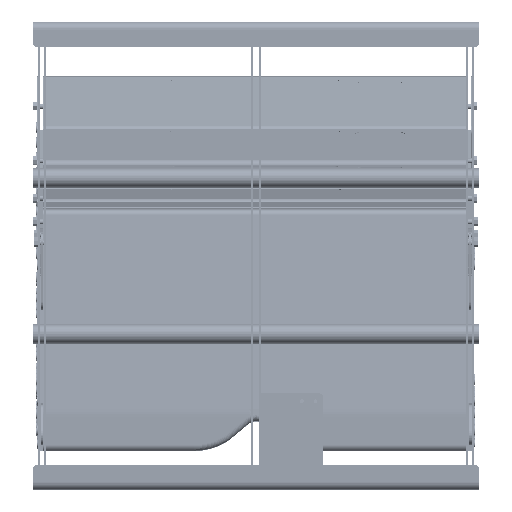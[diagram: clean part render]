
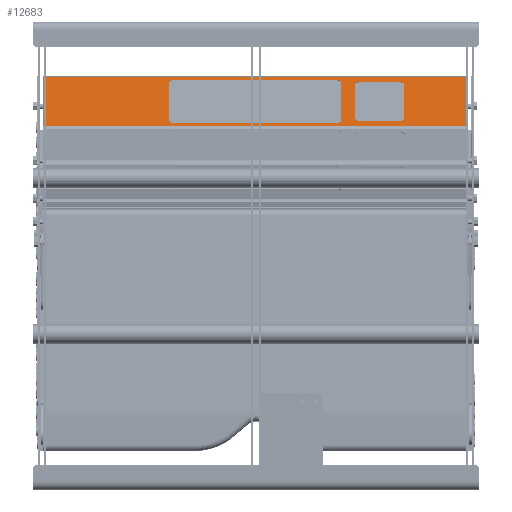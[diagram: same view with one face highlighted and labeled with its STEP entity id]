
A CAD part, top view. The second image highlights one B-rep face of the part: STEP entity #12683.
In plain terms, the highlighted planar face has unit normal (0, 0.875, 0.485) as drawn and (-1, 0, 0) by its records, which use the part's own axes.
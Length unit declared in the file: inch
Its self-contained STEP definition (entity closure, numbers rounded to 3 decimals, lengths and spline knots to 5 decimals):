
#927=CIRCLE('',#13787,0.375);
#928=CIRCLE('',#13788,0.375);
#929=CIRCLE('',#13789,0.375);
#930=CIRCLE('',#13790,0.375);
#931=CIRCLE('',#13791,0.33);
#932=CIRCLE('',#13792,0.33);
#933=CIRCLE('',#13793,0.33);
#934=CIRCLE('',#13794,0.33);
#1467=FACE_BOUND('',#2704,.T.);
#1468=FACE_BOUND('',#2705,.T.);
#1864=FACE_OUTER_BOUND('',#2703,.T.);
#2703=EDGE_LOOP('',(#10291,#10292,#10293,#10294));
#2704=EDGE_LOOP('',(#10295,#10296,#10297,#10298,#10299,#10300,#10301,#10302));
#2705=EDGE_LOOP('',(#10303,#10304,#10305,#10306,#10307,#10308,#10309,#10310));
#3933=LINE('',#20619,#5051);
#3936=LINE('',#20629,#5054);
#3937=LINE('',#20630,#5055);
#3938=LINE('',#20631,#5056);
#3939=LINE('',#20636,#5057);
#3940=LINE('',#20640,#5058);
#3941=LINE('',#20644,#5059);
#3942=LINE('',#20647,#5060);
#3943=LINE('',#20652,#5061);
#3944=LINE('',#20656,#5062);
#3945=LINE('',#20660,#5063);
#3946=LINE('',#20663,#5064);
#5051=VECTOR('',#16533,27.238);
#5054=VECTOR('',#16544,27.238);
#5055=VECTOR('',#16545,6.45343);
#5056=VECTOR('',#16546,6.45343);
#5057=VECTOR('',#16549,10.25);
#5058=VECTOR('',#16552,5.05);
#5059=VECTOR('',#16555,10.25);
#5060=VECTOR('',#16558,5.05);
#5061=VECTOR('',#16561,2.5);
#5062=VECTOR('',#16564,4.5);
#5063=VECTOR('',#16567,2.5);
#5064=VECTOR('',#16570,4.5);
#6143=VERTEX_POINT('',#20617);
#6144=VERTEX_POINT('',#20618);
#6146=VERTEX_POINT('',#20627);
#6147=VERTEX_POINT('',#20628);
#6148=VERTEX_POINT('',#20632);
#6149=VERTEX_POINT('',#20633);
#6150=VERTEX_POINT('',#20635);
#6151=VERTEX_POINT('',#20637);
#6152=VERTEX_POINT('',#20639);
#6153=VERTEX_POINT('',#20641);
#6154=VERTEX_POINT('',#20643);
#6155=VERTEX_POINT('',#20645);
#6156=VERTEX_POINT('',#20648);
#6157=VERTEX_POINT('',#20649);
#6158=VERTEX_POINT('',#20651);
#6159=VERTEX_POINT('',#20653);
#6160=VERTEX_POINT('',#20655);
#6161=VERTEX_POINT('',#20657);
#6162=VERTEX_POINT('',#20659);
#6163=VERTEX_POINT('',#20661);
#7622=EDGE_CURVE('',#6143,#6144,#3933,.T.);
#7627=EDGE_CURVE('',#6146,#6147,#3936,.T.);
#7628=EDGE_CURVE('',#6146,#6143,#3937,.T.);
#7629=EDGE_CURVE('',#6147,#6144,#3938,.T.);
#7630=EDGE_CURVE('',#6148,#6149,#927,.T.);
#7631=EDGE_CURVE('',#6150,#6148,#3939,.T.);
#7632=EDGE_CURVE('',#6151,#6150,#928,.T.);
#7633=EDGE_CURVE('',#6152,#6151,#3940,.T.);
#7634=EDGE_CURVE('',#6153,#6152,#929,.T.);
#7635=EDGE_CURVE('',#6154,#6153,#3941,.T.);
#7636=EDGE_CURVE('',#6155,#6154,#930,.T.);
#7637=EDGE_CURVE('',#6149,#6155,#3942,.T.);
#7638=EDGE_CURVE('',#6156,#6157,#931,.T.);
#7639=EDGE_CURVE('',#6158,#6156,#3943,.T.);
#7640=EDGE_CURVE('',#6159,#6158,#932,.T.);
#7641=EDGE_CURVE('',#6160,#6159,#3944,.T.);
#7642=EDGE_CURVE('',#6161,#6160,#933,.T.);
#7643=EDGE_CURVE('',#6162,#6161,#3945,.T.);
#7644=EDGE_CURVE('',#6163,#6162,#934,.T.);
#7645=EDGE_CURVE('',#6157,#6163,#3946,.T.);
#10291=ORIENTED_EDGE('',*,*,#7627,.F.);
#10292=ORIENTED_EDGE('',*,*,#7628,.T.);
#10293=ORIENTED_EDGE('',*,*,#7622,.T.);
#10294=ORIENTED_EDGE('',*,*,#7629,.F.);
#10295=ORIENTED_EDGE('',*,*,#7630,.F.);
#10296=ORIENTED_EDGE('',*,*,#7631,.F.);
#10297=ORIENTED_EDGE('',*,*,#7632,.F.);
#10298=ORIENTED_EDGE('',*,*,#7633,.F.);
#10299=ORIENTED_EDGE('',*,*,#7634,.F.);
#10300=ORIENTED_EDGE('',*,*,#7635,.F.);
#10301=ORIENTED_EDGE('',*,*,#7636,.F.);
#10302=ORIENTED_EDGE('',*,*,#7637,.F.);
#10303=ORIENTED_EDGE('',*,*,#7638,.F.);
#10304=ORIENTED_EDGE('',*,*,#7639,.F.);
#10305=ORIENTED_EDGE('',*,*,#7640,.F.);
#10306=ORIENTED_EDGE('',*,*,#7641,.F.);
#10307=ORIENTED_EDGE('',*,*,#7642,.F.);
#10308=ORIENTED_EDGE('',*,*,#7643,.F.);
#10309=ORIENTED_EDGE('',*,*,#7644,.F.);
#10310=ORIENTED_EDGE('',*,*,#7645,.F.);
#12218=PLANE('',#13786);
#12683=ADVANCED_FACE('',(#1864,#1467,#1468),#12218,.T.);
#13786=AXIS2_PLACEMENT_3D('',#20626,#16542,#16543);
#13787=AXIS2_PLACEMENT_3D('',#20634,#16547,#16548);
#13788=AXIS2_PLACEMENT_3D('',#20638,#16550,#16551);
#13789=AXIS2_PLACEMENT_3D('',#20642,#16553,#16554);
#13790=AXIS2_PLACEMENT_3D('',#20646,#16556,#16557);
#13791=AXIS2_PLACEMENT_3D('',#20650,#16559,#16560);
#13792=AXIS2_PLACEMENT_3D('',#20654,#16562,#16563);
#13793=AXIS2_PLACEMENT_3D('',#20658,#16565,#16566);
#13794=AXIS2_PLACEMENT_3D('',#20662,#16568,#16569);
#16533=DIRECTION('',(0.,0.,1.));
#16542=DIRECTION('center_axis',(-1.,0.,0.));
#16543=DIRECTION('ref_axis',(0.,0.,1.));
#16544=DIRECTION('',(0.,0.,1.));
#16545=DIRECTION('',(0.,-1.,0.));
#16546=DIRECTION('',(0.,-1.,0.));
#16547=DIRECTION('center_axis',(-1.,0.,0.));
#16548=DIRECTION('ref_axis',(0.,-1.,0.));
#16549=DIRECTION('',(0.,0.,-1.));
#16550=DIRECTION('center_axis',(-1.,0.,0.));
#16551=DIRECTION('ref_axis',(0.,-1.,0.));
#16552=DIRECTION('',(0.,1.,0.));
#16553=DIRECTION('center_axis',(-1.,0.,0.));
#16554=DIRECTION('ref_axis',(0.,-1.,0.));
#16555=DIRECTION('',(0.,0.,1.));
#16556=DIRECTION('center_axis',(-1.,0.,0.));
#16557=DIRECTION('ref_axis',(0.,-1.,0.));
#16558=DIRECTION('',(0.,-1.,0.));
#16559=DIRECTION('center_axis',(-1.,0.,0.));
#16560=DIRECTION('ref_axis',(0.,-1.,0.));
#16561=DIRECTION('',(0.,0.,-1.));
#16562=DIRECTION('center_axis',(-1.,0.,0.));
#16563=DIRECTION('ref_axis',(0.,-1.,0.));
#16564=DIRECTION('',(0.,1.,0.));
#16565=DIRECTION('center_axis',(-1.,0.,0.));
#16566=DIRECTION('ref_axis',(0.,-1.,0.));
#16567=DIRECTION('',(0.,0.,1.));
#16568=DIRECTION('center_axis',(-1.,0.,0.));
#16569=DIRECTION('ref_axis',(0.,-1.,0.));
#16570=DIRECTION('',(0.,-1.,0.));
#20617=CARTESIAN_POINT('',(-13.0906,-3.22672,-27.607));
#20618=CARTESIAN_POINT('',(-13.0906,-3.22672,-0.369));
#20619=CARTESIAN_POINT('',(-13.0906,-3.22672,-27.607));
#20626=CARTESIAN_POINT('Origin',(-13.0906,-3.22672,-27.976));
#20627=CARTESIAN_POINT('',(-13.0906,3.22672,-27.607));
#20628=CARTESIAN_POINT('',(-13.0906,3.22672,-0.369));
#20629=CARTESIAN_POINT('',(-13.0906,3.22672,-27.607));
#20630=CARTESIAN_POINT('',(-13.0906,3.22672,-27.607));
#20631=CARTESIAN_POINT('',(-13.0906,3.22672,-0.369));
#20632=CARTESIAN_POINT('',(-13.0906,2.9,-19.113));
#20633=CARTESIAN_POINT('',(-13.0906,2.525,-19.488));
#20634=CARTESIAN_POINT('Origin',(-13.0906,2.525,-19.113));
#20635=CARTESIAN_POINT('',(-13.0906,2.9,-8.863));
#20636=CARTESIAN_POINT('',(-13.0906,2.9,-8.863));
#20637=CARTESIAN_POINT('',(-13.0906,2.525,-8.488));
#20638=CARTESIAN_POINT('Origin',(-13.0906,2.525,-8.863));
#20639=CARTESIAN_POINT('',(-13.0906,-2.525,-8.488));
#20640=CARTESIAN_POINT('',(-13.0906,-2.525,-8.488));
#20641=CARTESIAN_POINT('',(-13.0906,-2.9,-8.863));
#20642=CARTESIAN_POINT('Origin',(-13.0906,-2.525,-8.863));
#20643=CARTESIAN_POINT('',(-13.0906,-2.9,-19.113));
#20644=CARTESIAN_POINT('',(-13.0906,-2.9,-19.113));
#20645=CARTESIAN_POINT('',(-13.0906,-2.525,-19.488));
#20646=CARTESIAN_POINT('Origin',(-13.0906,-2.525,-19.113));
#20647=CARTESIAN_POINT('',(-13.0906,2.525,-19.488));
#20648=CARTESIAN_POINT('',(-13.0906,2.58,-23.238));
#20649=CARTESIAN_POINT('',(-13.0906,2.25,-23.568));
#20650=CARTESIAN_POINT('Origin',(-13.0906,2.25,-23.238));
#20651=CARTESIAN_POINT('',(-13.0906,2.58,-20.738));
#20652=CARTESIAN_POINT('',(-13.0906,2.58,-20.738));
#20653=CARTESIAN_POINT('',(-13.0906,2.25,-20.408));
#20654=CARTESIAN_POINT('Origin',(-13.0906,2.25,-20.738));
#20655=CARTESIAN_POINT('',(-13.0906,-2.25,-20.408));
#20656=CARTESIAN_POINT('',(-13.0906,-2.25,-20.408));
#20657=CARTESIAN_POINT('',(-13.0906,-2.58,-20.738));
#20658=CARTESIAN_POINT('Origin',(-13.0906,-2.25,-20.738));
#20659=CARTESIAN_POINT('',(-13.0906,-2.58,-23.238));
#20660=CARTESIAN_POINT('',(-13.0906,-2.58,-23.238));
#20661=CARTESIAN_POINT('',(-13.0906,-2.25,-23.568));
#20662=CARTESIAN_POINT('Origin',(-13.0906,-2.25,-23.238));
#20663=CARTESIAN_POINT('',(-13.0906,2.25,-23.568));
